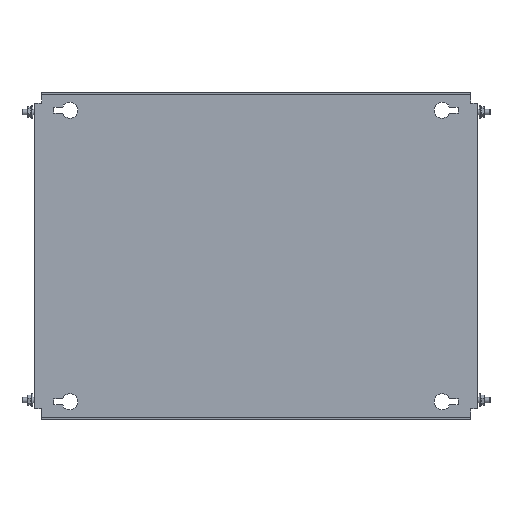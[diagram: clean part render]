
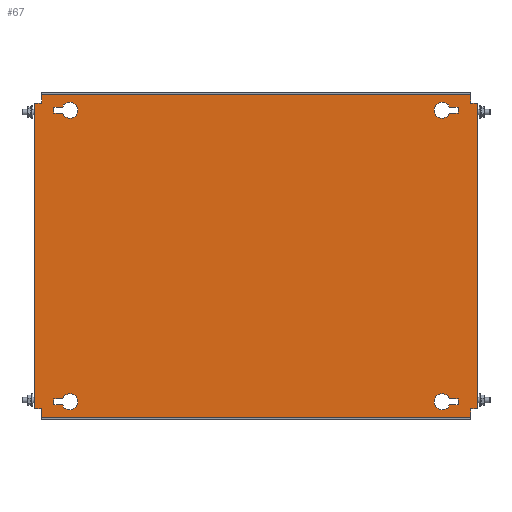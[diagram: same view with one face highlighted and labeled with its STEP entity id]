
A CAD part, top view. The second image highlights one B-rep face of the part: STEP entity #67.
In plain terms, the highlighted planar face has unit normal (0, 0, 1).
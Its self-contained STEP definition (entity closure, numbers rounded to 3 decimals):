
#67 = ADVANCED_FACE('',(#68,#103,#138,#300,#335),#370,.T.);
#68 = FACE_BOUND('',#69,.T.);
#69 = EDGE_LOOP('',(#70,#80,#88,#96));
#70 = ORIENTED_EDGE('',*,*,#71,.T.);
#71 = EDGE_CURVE('',#72,#74,#76,.T.);
#72 = VERTEX_POINT('',#73);
#73 = CARTESIAN_POINT('',(218.393,167.75,2.));
#74 = VERTEX_POINT('',#75);
#75 = CARTESIAN_POINT('',(228.,167.75,2.));
#76 = LINE('',#77,#78);
#77 = CARTESIAN_POINT('',(227.,167.75,2.));
#78 = VECTOR('',#79,1.);
#79 = DIRECTION('',(1.,0.,0.));
#80 = ORIENTED_EDGE('',*,*,#81,.T.);
#81 = EDGE_CURVE('',#74,#82,#84,.T.);
#82 = VERTEX_POINT('',#83);
#83 = CARTESIAN_POINT('',(228.,161.25,2.));
#84 = LINE('',#85,#86);
#85 = CARTESIAN_POINT('',(228.,167.75,2.));
#86 = VECTOR('',#87,1.);
#87 = DIRECTION('',(0.,-1.,0.));
#88 = ORIENTED_EDGE('',*,*,#89,.T.);
#89 = EDGE_CURVE('',#82,#90,#92,.T.);
#90 = VERTEX_POINT('',#91);
#91 = CARTESIAN_POINT('',(218.393,161.25,2.));
#92 = LINE('',#93,#94);
#93 = CARTESIAN_POINT('',(227.,161.25,2.));
#94 = VECTOR('',#95,1.);
#95 = DIRECTION('',(-1.,0.,0.));
#96 = ORIENTED_EDGE('',*,*,#97,.T.);
#97 = EDGE_CURVE('',#90,#72,#98,.T.);
#98 = CIRCLE('',#99,9.);
#99 = AXIS2_PLACEMENT_3D('',#100,#101,#102);
#100 = CARTESIAN_POINT('',(210.,164.5,2.));
#101 = DIRECTION('',(0.,0.,-1.));
#102 = DIRECTION('',(1.,0.,0.));
#103 = FACE_BOUND('',#104,.T.);
#104 = EDGE_LOOP('',(#105,#115,#123,#131));
#105 = ORIENTED_EDGE('',*,*,#106,.T.);
#106 = EDGE_CURVE('',#107,#109,#111,.T.);
#107 = VERTEX_POINT('',#108);
#108 = CARTESIAN_POINT('',(-218.393,-167.75,2.));
#109 = VERTEX_POINT('',#110);
#110 = CARTESIAN_POINT('',(-228.,-167.75,2.));
#111 = LINE('',#112,#113);
#112 = CARTESIAN_POINT('',(-227.,-167.75,2.));
#113 = VECTOR('',#114,1.);
#114 = DIRECTION('',(-1.,0.,0.));
#115 = ORIENTED_EDGE('',*,*,#116,.T.);
#116 = EDGE_CURVE('',#109,#117,#119,.T.);
#117 = VERTEX_POINT('',#118);
#118 = CARTESIAN_POINT('',(-228.,-161.25,2.));
#119 = LINE('',#120,#121);
#120 = CARTESIAN_POINT('',(-228.,-167.75,2.));
#121 = VECTOR('',#122,1.);
#122 = DIRECTION('',(0.,1.,0.));
#123 = ORIENTED_EDGE('',*,*,#124,.T.);
#124 = EDGE_CURVE('',#117,#125,#127,.T.);
#125 = VERTEX_POINT('',#126);
#126 = CARTESIAN_POINT('',(-218.393,-161.25,2.));
#127 = LINE('',#128,#129);
#128 = CARTESIAN_POINT('',(-227.,-161.25,2.));
#129 = VECTOR('',#130,1.);
#130 = DIRECTION('',(1.,-0.,-0.));
#131 = ORIENTED_EDGE('',*,*,#132,.T.);
#132 = EDGE_CURVE('',#125,#107,#133,.T.);
#133 = CIRCLE('',#134,9.);
#134 = AXIS2_PLACEMENT_3D('',#135,#136,#137);
#135 = CARTESIAN_POINT('',(-210.,-164.5,2.));
#136 = DIRECTION('',(0.,0.,-1.));
#137 = DIRECTION('',(-1.,0.,0.));
#138 = FACE_BOUND('',#139,.T.);
#139 = EDGE_LOOP('',(#140,#150,#158,#166,#174,#182,#190,#198,#206,#214,
    #222,#230,#238,#246,#254,#262,#270,#278,#286,#294));
#140 = ORIENTED_EDGE('',*,*,#141,.F.);
#141 = EDGE_CURVE('',#142,#144,#146,.T.);
#142 = VERTEX_POINT('',#143);
#143 = CARTESIAN_POINT('',(-247.4,172.5,2.));
#144 = VERTEX_POINT('',#145);
#145 = CARTESIAN_POINT('',(-242.,172.5,2.));
#146 = LINE('',#147,#148);
#147 = CARTESIAN_POINT('',(-248.,172.5,2.));
#148 = VECTOR('',#149,1.);
#149 = DIRECTION('',(1.,0.,-0.));
#150 = ORIENTED_EDGE('',*,*,#151,.T.);
#151 = EDGE_CURVE('',#142,#152,#154,.T.);
#152 = VERTEX_POINT('',#153);
#153 = CARTESIAN_POINT('',(-250.,172.5,2.));
#154 = LINE('',#155,#156);
#155 = CARTESIAN_POINT('',(-247.4,172.5,2.));
#156 = VECTOR('',#157,1.);
#157 = DIRECTION('',(-1.,0.,0.));
#158 = ORIENTED_EDGE('',*,*,#159,.F.);
#159 = EDGE_CURVE('',#160,#152,#162,.T.);
#160 = VERTEX_POINT('',#161);
#161 = CARTESIAN_POINT('',(-250.,-172.5,2.));
#162 = LINE('',#163,#164);
#163 = CARTESIAN_POINT('',(-250.,-182.5,2.));
#164 = VECTOR('',#165,1.);
#165 = DIRECTION('',(0.,1.,-0.));
#166 = ORIENTED_EDGE('',*,*,#167,.F.);
#167 = EDGE_CURVE('',#168,#160,#170,.T.);
#168 = VERTEX_POINT('',#169);
#169 = CARTESIAN_POINT('',(-247.4,-172.5,2.));
#170 = LINE('',#171,#172);
#171 = CARTESIAN_POINT('',(-242.,-172.5,2.));
#172 = VECTOR('',#173,1.);
#173 = DIRECTION('',(-1.,-0.,-0.));
#174 = ORIENTED_EDGE('',*,*,#175,.T.);
#175 = EDGE_CURVE('',#168,#176,#178,.T.);
#176 = VERTEX_POINT('',#177);
#177 = CARTESIAN_POINT('',(-242.,-172.5,2.));
#178 = LINE('',#179,#180);
#179 = CARTESIAN_POINT('',(-248.,-172.5,2.));
#180 = VECTOR('',#181,1.);
#181 = DIRECTION('',(1.,0.,-0.));
#182 = ORIENTED_EDGE('',*,*,#183,.T.);
#183 = EDGE_CURVE('',#176,#184,#186,.T.);
#184 = VERTEX_POINT('',#185);
#185 = CARTESIAN_POINT('',(-242.,-181.9,2.));
#186 = LINE('',#187,#188);
#187 = CARTESIAN_POINT('',(-242.,182.5,2.));
#188 = VECTOR('',#189,1.);
#189 = DIRECTION('',(0.,-1.,0.));
#190 = ORIENTED_EDGE('',*,*,#191,.T.);
#191 = EDGE_CURVE('',#184,#192,#194,.T.);
#192 = VERTEX_POINT('',#193);
#193 = CARTESIAN_POINT('',(-242.,-182.5,2.));
#194 = LINE('',#195,#196);
#195 = CARTESIAN_POINT('',(-242.,-181.9,2.));
#196 = VECTOR('',#197,1.);
#197 = DIRECTION('',(-0.,-1.,-0.));
#198 = ORIENTED_EDGE('',*,*,#199,.T.);
#199 = EDGE_CURVE('',#192,#200,#202,.T.);
#200 = VERTEX_POINT('',#201);
#201 = CARTESIAN_POINT('',(242.,-182.5,2.));
#202 = LINE('',#203,#204);
#203 = CARTESIAN_POINT('',(242.,-182.5,2.));
#204 = VECTOR('',#205,1.);
#205 = DIRECTION('',(1.,0.,0.));
#206 = ORIENTED_EDGE('',*,*,#207,.F.);
#207 = EDGE_CURVE('',#208,#200,#210,.T.);
#208 = VERTEX_POINT('',#209);
#209 = CARTESIAN_POINT('',(242.,-181.9,2.));
#210 = LINE('',#211,#212);
#211 = CARTESIAN_POINT('',(242.,-182.5,2.));
#212 = VECTOR('',#213,1.);
#213 = DIRECTION('',(0.,-1.,0.));
#214 = ORIENTED_EDGE('',*,*,#215,.T.);
#215 = EDGE_CURVE('',#208,#216,#218,.T.);
#216 = VERTEX_POINT('',#217);
#217 = CARTESIAN_POINT('',(242.,-172.5,2.));
#218 = LINE('',#219,#220);
#219 = CARTESIAN_POINT('',(242.,182.5,2.));
#220 = VECTOR('',#221,1.);
#221 = DIRECTION('',(0.,1.,-0.));
#222 = ORIENTED_EDGE('',*,*,#223,.F.);
#223 = EDGE_CURVE('',#224,#216,#226,.T.);
#224 = VERTEX_POINT('',#225);
#225 = CARTESIAN_POINT('',(247.4,-172.5,2.));
#226 = LINE('',#227,#228);
#227 = CARTESIAN_POINT('',(248.,-172.5,2.));
#228 = VECTOR('',#229,1.);
#229 = DIRECTION('',(-1.,0.,-0.));
#230 = ORIENTED_EDGE('',*,*,#231,.T.);
#231 = EDGE_CURVE('',#224,#232,#234,.T.);
#232 = VERTEX_POINT('',#233);
#233 = CARTESIAN_POINT('',(250.,-172.5,2.));
#234 = LINE('',#235,#236);
#235 = CARTESIAN_POINT('',(247.4,-172.5,2.));
#236 = VECTOR('',#237,1.);
#237 = DIRECTION('',(1.,0.,0.));
#238 = ORIENTED_EDGE('',*,*,#239,.F.);
#239 = EDGE_CURVE('',#240,#232,#242,.T.);
#240 = VERTEX_POINT('',#241);
#241 = CARTESIAN_POINT('',(250.,172.5,2.));
#242 = LINE('',#243,#244);
#243 = CARTESIAN_POINT('',(250.,-182.5,2.));
#244 = VECTOR('',#245,1.);
#245 = DIRECTION('',(0.,-1.,-0.));
#246 = ORIENTED_EDGE('',*,*,#247,.F.);
#247 = EDGE_CURVE('',#248,#240,#250,.T.);
#248 = VERTEX_POINT('',#249);
#249 = CARTESIAN_POINT('',(247.4,172.5,2.));
#250 = LINE('',#251,#252);
#251 = CARTESIAN_POINT('',(-242.,172.5,2.));
#252 = VECTOR('',#253,1.);
#253 = DIRECTION('',(1.,-0.,-0.));
#254 = ORIENTED_EDGE('',*,*,#255,.T.);
#255 = EDGE_CURVE('',#248,#256,#258,.T.);
#256 = VERTEX_POINT('',#257);
#257 = CARTESIAN_POINT('',(242.,172.5,2.));
#258 = LINE('',#259,#260);
#259 = CARTESIAN_POINT('',(248.,172.5,2.));
#260 = VECTOR('',#261,1.);
#261 = DIRECTION('',(-1.,0.,-0.));
#262 = ORIENTED_EDGE('',*,*,#263,.T.);
#263 = EDGE_CURVE('',#256,#264,#266,.T.);
#264 = VERTEX_POINT('',#265);
#265 = CARTESIAN_POINT('',(242.,181.9,2.));
#266 = LINE('',#267,#268);
#267 = CARTESIAN_POINT('',(242.,182.5,2.));
#268 = VECTOR('',#269,1.);
#269 = DIRECTION('',(0.,1.,-0.));
#270 = ORIENTED_EDGE('',*,*,#271,.T.);
#271 = EDGE_CURVE('',#264,#272,#274,.T.);
#272 = VERTEX_POINT('',#273);
#273 = CARTESIAN_POINT('',(242.,182.5,2.));
#274 = LINE('',#275,#276);
#275 = CARTESIAN_POINT('',(242.,181.9,2.));
#276 = VECTOR('',#277,1.);
#277 = DIRECTION('',(-0.,1.,-0.));
#278 = ORIENTED_EDGE('',*,*,#279,.T.);
#279 = EDGE_CURVE('',#272,#280,#282,.T.);
#280 = VERTEX_POINT('',#281);
#281 = CARTESIAN_POINT('',(-242.,182.5,2.));
#282 = LINE('',#283,#284);
#283 = CARTESIAN_POINT('',(-242.,182.5,2.));
#284 = VECTOR('',#285,1.);
#285 = DIRECTION('',(-1.,0.,0.));
#286 = ORIENTED_EDGE('',*,*,#287,.F.);
#287 = EDGE_CURVE('',#288,#280,#290,.T.);
#288 = VERTEX_POINT('',#289);
#289 = CARTESIAN_POINT('',(-242.,181.9,2.));
#290 = LINE('',#291,#292);
#291 = CARTESIAN_POINT('',(-242.,-182.5,2.));
#292 = VECTOR('',#293,1.);
#293 = DIRECTION('',(0.,1.,-0.));
#294 = ORIENTED_EDGE('',*,*,#295,.T.);
#295 = EDGE_CURVE('',#288,#144,#296,.T.);
#296 = LINE('',#297,#298);
#297 = CARTESIAN_POINT('',(-242.,182.5,2.));
#298 = VECTOR('',#299,1.);
#299 = DIRECTION('',(0.,-1.,0.));
#300 = FACE_BOUND('',#301,.T.);
#301 = EDGE_LOOP('',(#302,#312,#320,#328));
#302 = ORIENTED_EDGE('',*,*,#303,.F.);
#303 = EDGE_CURVE('',#304,#306,#308,.T.);
#304 = VERTEX_POINT('',#305);
#305 = CARTESIAN_POINT('',(228.,-161.25,2.));
#306 = VERTEX_POINT('',#307);
#307 = CARTESIAN_POINT('',(218.393,-161.25,2.));
#308 = LINE('',#309,#310);
#309 = CARTESIAN_POINT('',(218.393,-161.25,2.));
#310 = VECTOR('',#311,1.);
#311 = DIRECTION('',(-1.,0.,0.));
#312 = ORIENTED_EDGE('',*,*,#313,.F.);
#313 = EDGE_CURVE('',#314,#304,#316,.T.);
#314 = VERTEX_POINT('',#315);
#315 = CARTESIAN_POINT('',(228.,-167.75,2.));
#316 = LINE('',#317,#318);
#317 = CARTESIAN_POINT('',(228.,-161.25,2.));
#318 = VECTOR('',#319,1.);
#319 = DIRECTION('',(0.,1.,0.));
#320 = ORIENTED_EDGE('',*,*,#321,.F.);
#321 = EDGE_CURVE('',#322,#314,#324,.T.);
#322 = VERTEX_POINT('',#323);
#323 = CARTESIAN_POINT('',(218.393,-167.75,2.));
#324 = LINE('',#325,#326);
#325 = CARTESIAN_POINT('',(227.,-167.75,2.));
#326 = VECTOR('',#327,1.);
#327 = DIRECTION('',(1.,0.,0.));
#328 = ORIENTED_EDGE('',*,*,#329,.F.);
#329 = EDGE_CURVE('',#306,#322,#330,.T.);
#330 = CIRCLE('',#331,9.);
#331 = AXIS2_PLACEMENT_3D('',#332,#333,#334);
#332 = CARTESIAN_POINT('',(210.,-164.5,2.));
#333 = DIRECTION('',(0.,-0.,1.));
#334 = DIRECTION('',(1.,0.,0.));
#335 = FACE_BOUND('',#336,.T.);
#336 = EDGE_LOOP('',(#337,#347,#355,#363));
#337 = ORIENTED_EDGE('',*,*,#338,.F.);
#338 = EDGE_CURVE('',#339,#341,#343,.T.);
#339 = VERTEX_POINT('',#340);
#340 = CARTESIAN_POINT('',(-228.,161.25,2.));
#341 = VERTEX_POINT('',#342);
#342 = CARTESIAN_POINT('',(-218.393,161.25,2.));
#343 = LINE('',#344,#345);
#344 = CARTESIAN_POINT('',(-218.393,161.25,2.));
#345 = VECTOR('',#346,1.);
#346 = DIRECTION('',(1.,0.,0.));
#347 = ORIENTED_EDGE('',*,*,#348,.F.);
#348 = EDGE_CURVE('',#349,#339,#351,.T.);
#349 = VERTEX_POINT('',#350);
#350 = CARTESIAN_POINT('',(-228.,167.75,2.));
#351 = LINE('',#352,#353);
#352 = CARTESIAN_POINT('',(-228.,161.25,2.));
#353 = VECTOR('',#354,1.);
#354 = DIRECTION('',(0.,-1.,0.));
#355 = ORIENTED_EDGE('',*,*,#356,.F.);
#356 = EDGE_CURVE('',#357,#349,#359,.T.);
#357 = VERTEX_POINT('',#358);
#358 = CARTESIAN_POINT('',(-218.393,167.75,2.));
#359 = LINE('',#360,#361);
#360 = CARTESIAN_POINT('',(-227.,167.75,2.));
#361 = VECTOR('',#362,1.);
#362 = DIRECTION('',(-1.,0.,0.));
#363 = ORIENTED_EDGE('',*,*,#364,.F.);
#364 = EDGE_CURVE('',#341,#357,#365,.T.);
#365 = CIRCLE('',#366,9.);
#366 = AXIS2_PLACEMENT_3D('',#367,#368,#369);
#367 = CARTESIAN_POINT('',(-210.,164.5,2.));
#368 = DIRECTION('',(0.,-0.,1.));
#369 = DIRECTION('',(-1.,0.,0.));
#370 = PLANE('',#371);
#371 = AXIS2_PLACEMENT_3D('',#372,#373,#374);
#372 = CARTESIAN_POINT('',(-242.,-182.5,2.));
#373 = DIRECTION('',(-0.,0.,1.));
#374 = DIRECTION('',(1.,0.,0.));
